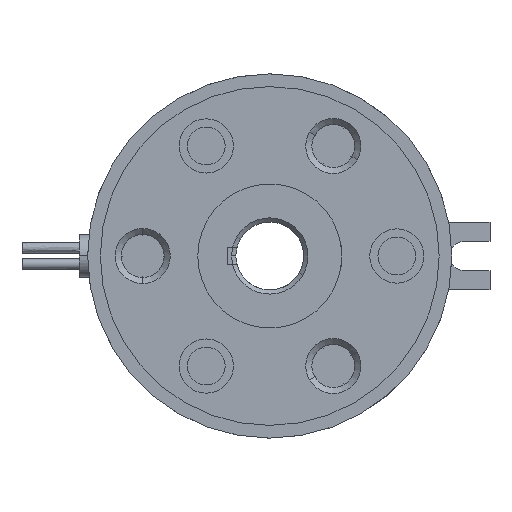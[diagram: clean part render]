
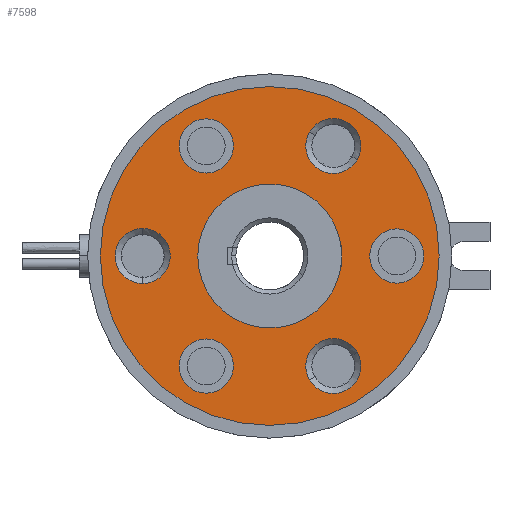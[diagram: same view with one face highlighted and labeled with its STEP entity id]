
A CAD part, left-side view. The second image highlights one B-rep face of the part: STEP entity #7598.
In plain terms, the highlighted planar face has unit normal (-1, 0, 0) as drawn and (0, 0, 1) by its records, which use the part's own axes.
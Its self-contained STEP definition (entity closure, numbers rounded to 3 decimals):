
#6362=CARTESIAN_POINT('',(-20.0,0.,3.0));
#6363=VERTEX_POINT('',#6362);
#6379=CARTESIAN_POINT('',(20.0,0.,3.0));
#6380=VERTEX_POINT('',#6379);
#6387=CARTESIAN_POINT('',(0.0,0.0,3.0));
#6388=DIRECTION('',(0.0,0.0,-1.0));
#6389=DIRECTION('',(-1.0,0.0,0.0));
#6390=AXIS2_PLACEMENT_3D('',#6387,#6388,#6389);
#6391=CIRCLE('',#6390,20.0);
#6392=EDGE_CURVE('',#6380,#6363,#6391,.T.);
#6402=CARTESIAN_POINT('',(-8.5,0.,3.0));
#6403=VERTEX_POINT('',#6402);
#6412=CARTESIAN_POINT('',(8.5,0.,3.0));
#6413=VERTEX_POINT('',#6412);
#6414=CARTESIAN_POINT('',(0.0,0.0,3.0));
#6415=DIRECTION('',(0.0,0.0,-1.0));
#6416=DIRECTION('',(-1.0,0.0,0.0));
#6417=AXIS2_PLACEMENT_3D('',#6414,#6415,#6416);
#6418=CIRCLE('',#6417,8.5);
#6419=EDGE_CURVE('',#6413,#6403,#6418,.T.);
#6548=CARTESIAN_POINT('',(-3.25,-15.0,3.0));
#6549=VERTEX_POINT('',#6548);
#6563=CARTESIAN_POINT('',(3.25,-15.0,3.0));
#6564=VERTEX_POINT('',#6563);
#6571=CARTESIAN_POINT('',(0.,-15.0,3.0));
#6572=DIRECTION('',(0.0,0.0,1.0));
#6573=DIRECTION('',(-1.0,0.0,0.0));
#6574=AXIS2_PLACEMENT_3D('',#6571,#6572,#6573);
#6575=CIRCLE('',#6574,3.25);
#6576=EDGE_CURVE('',#6564,#6549,#6575,.T.);
#6628=CARTESIAN_POINT('',(14.615,4.685,3.0));
#6629=VERTEX_POINT('',#6628);
#6643=CARTESIAN_POINT('',(11.365,10.315,3.0));
#6644=VERTEX_POINT('',#6643);
#6651=CARTESIAN_POINT('',(12.99,7.5,3.0));
#6652=DIRECTION('',(0.0,0.0,1.0));
#6653=DIRECTION('',(0.5,-0.866,0.0));
#6654=AXIS2_PLACEMENT_3D('',#6651,#6652,#6653);
#6655=CIRCLE('',#6654,3.25);
#6656=EDGE_CURVE('',#6644,#6629,#6655,.T.);
#6708=CARTESIAN_POINT('',(-11.365,10.315,3.0));
#6709=VERTEX_POINT('',#6708);
#6723=CARTESIAN_POINT('',(-14.615,4.685,3.0));
#6724=VERTEX_POINT('',#6723);
#6731=CARTESIAN_POINT('',(-12.99,7.5,3.0));
#6732=DIRECTION('',(0.0,0.0,1.0));
#6733=DIRECTION('',(0.5,0.866,0.0));
#6734=AXIS2_PLACEMENT_3D('',#6731,#6732,#6733);
#6735=CIRCLE('',#6734,3.25);
#6736=EDGE_CURVE('',#6724,#6709,#6735,.T.);
#6748=CARTESIAN_POINT('',(-16.19,-7.5,3.0));
#6749=VERTEX_POINT('',#6748);
#6765=CARTESIAN_POINT('',(-9.79,-7.5,3.0));
#6766=VERTEX_POINT('',#6765);
#6773=CARTESIAN_POINT('',(-12.99,-7.5,3.0));
#6774=DIRECTION('',(0.0,0.0,-1.0));
#6775=DIRECTION('',(-1.0,0.0,0.0));
#6776=AXIS2_PLACEMENT_3D('',#6773,#6774,#6775);
#6777=CIRCLE('',#6776,3.2);
#6778=EDGE_CURVE('',#6749,#6766,#6777,.T.);
#6790=CARTESIAN_POINT('',(1.6,17.771,3.0));
#6791=VERTEX_POINT('',#6790);
#6807=CARTESIAN_POINT('',(-1.6,12.229,3.0));
#6808=VERTEX_POINT('',#6807);
#6815=CARTESIAN_POINT('',(0.,15.0,3.0));
#6816=DIRECTION('',(0.0,0.0,-1.0));
#6817=DIRECTION('',(0.5,0.866,0.0));
#6818=AXIS2_PLACEMENT_3D('',#6815,#6816,#6817);
#6819=CIRCLE('',#6818,3.2);
#6820=EDGE_CURVE('',#6791,#6808,#6819,.T.);
#6832=CARTESIAN_POINT('',(14.59,-10.271,3.0));
#6833=VERTEX_POINT('',#6832);
#6849=CARTESIAN_POINT('',(11.39,-4.729,3.0));
#6850=VERTEX_POINT('',#6849);
#6857=CARTESIAN_POINT('',(12.99,-7.5,3.0));
#6858=DIRECTION('',(0.0,0.0,-1.));
#6859=DIRECTION('',(0.5,-0.866,0.0));
#6860=AXIS2_PLACEMENT_3D('',#6857,#6858,#6859);
#6861=CIRCLE('',#6860,3.2);
#6862=EDGE_CURVE('',#6833,#6850,#6861,.T.);
#7471=CARTESIAN_POINT('',(12.99,-7.5,3.0));
#7472=DIRECTION('',(0.0,0.0,-1.));
#7473=DIRECTION('',(0.5,-0.866,0.0));
#7474=AXIS2_PLACEMENT_3D('',#7471,#7472,#7473);
#7475=CIRCLE('',#7474,3.2);
#7476=EDGE_CURVE('',#6850,#6833,#7475,.T.);
#7489=CARTESIAN_POINT('',(0.,15.0,3.0));
#7490=DIRECTION('',(0.0,0.0,-1.0));
#7491=DIRECTION('',(0.5,0.866,0.0));
#7492=AXIS2_PLACEMENT_3D('',#7489,#7490,#7491);
#7493=CIRCLE('',#7492,3.2);
#7494=EDGE_CURVE('',#6808,#6791,#7493,.T.);
#7507=CARTESIAN_POINT('',(-12.99,-7.5,3.0));
#7508=DIRECTION('',(0.0,0.0,-1.0));
#7509=DIRECTION('',(-1.0,0.0,0.0));
#7510=AXIS2_PLACEMENT_3D('',#7507,#7508,#7509);
#7511=CIRCLE('',#7510,3.2);
#7512=EDGE_CURVE('',#6766,#6749,#7511,.T.);
#7525=CARTESIAN_POINT('',(-12.99,7.5,3.0));
#7526=DIRECTION('',(0.0,0.0,1.0));
#7527=DIRECTION('',(0.5,0.866,0.0));
#7528=AXIS2_PLACEMENT_3D('',#7525,#7526,#7527);
#7529=CIRCLE('',#7528,3.25);
#7530=EDGE_CURVE('',#6709,#6724,#7529,.T.);
#7537=CARTESIAN_POINT('',(0.0,0.0,3.0));
#7538=DIRECTION('',(0.0,0.0,-1.0));
#7539=DIRECTION('',(-1.0,0.0,0.0));
#7540=AXIS2_PLACEMENT_3D('',#7537,#7538,#7539);
#7541=PLANE('',#7540);
#7542=ORIENTED_EDGE('',*,*,#6392,.F.);
#7543=CARTESIAN_POINT('',(0.0,0.0,3.0));
#7544=DIRECTION('',(0.0,0.0,-1.0));
#7545=DIRECTION('',(-1.0,0.0,0.0));
#7546=AXIS2_PLACEMENT_3D('',#7543,#7544,#7545);
#7547=CIRCLE('',#7546,20.0);
#7548=EDGE_CURVE('',#6363,#6380,#7547,.T.);
#7549=ORIENTED_EDGE('',*,*,#7548,.F.);
#7550=EDGE_LOOP('',(#7542,#7549));
#7551=FACE_OUTER_BOUND('',#7550,.T.);
#7552=ORIENTED_EDGE('',*,*,#7476,.T.);
#7553=ORIENTED_EDGE('',*,*,#6862,.T.);
#7554=EDGE_LOOP('',(#7552,#7553));
#7555=FACE_BOUND('',#7554,.T.);
#7556=ORIENTED_EDGE('',*,*,#7494,.T.);
#7557=ORIENTED_EDGE('',*,*,#6820,.T.);
#7558=EDGE_LOOP('',(#7556,#7557));
#7559=FACE_BOUND('',#7558,.T.);
#7560=ORIENTED_EDGE('',*,*,#7512,.T.);
#7561=ORIENTED_EDGE('',*,*,#6778,.T.);
#7562=EDGE_LOOP('',(#7560,#7561));
#7563=FACE_BOUND('',#7562,.T.);
#7564=ORIENTED_EDGE('',*,*,#6656,.F.);
#7565=CARTESIAN_POINT('',(12.99,7.5,3.0));
#7566=DIRECTION('',(0.0,0.0,1.0));
#7567=DIRECTION('',(0.5,-0.866,0.0));
#7568=AXIS2_PLACEMENT_3D('',#7565,#7566,#7567);
#7569=CIRCLE('',#7568,3.25);
#7570=EDGE_CURVE('',#6629,#6644,#7569,.T.);
#7571=ORIENTED_EDGE('',*,*,#7570,.F.);
#7572=EDGE_LOOP('',(#7564,#7571));
#7573=FACE_BOUND('',#7572,.T.);
#7574=ORIENTED_EDGE('',*,*,#6419,.T.);
#7575=CARTESIAN_POINT('',(0.0,0.0,3.0));
#7576=DIRECTION('',(0.0,0.0,-1.0));
#7577=DIRECTION('',(-1.0,0.0,0.0));
#7578=AXIS2_PLACEMENT_3D('',#7575,#7576,#7577);
#7579=CIRCLE('',#7578,8.5);
#7580=EDGE_CURVE('',#6403,#6413,#7579,.T.);
#7581=ORIENTED_EDGE('',*,*,#7580,.T.);
#7582=EDGE_LOOP('',(#7574,#7581));
#7583=FACE_BOUND('',#7582,.T.);
#7584=ORIENTED_EDGE('',*,*,#6576,.F.);
#7585=CARTESIAN_POINT('',(0.,-15.0,3.0));
#7586=DIRECTION('',(0.0,0.0,1.0));
#7587=DIRECTION('',(-1.0,0.0,0.0));
#7588=AXIS2_PLACEMENT_3D('',#7585,#7586,#7587);
#7589=CIRCLE('',#7588,3.25);
#7590=EDGE_CURVE('',#6549,#6564,#7589,.T.);
#7591=ORIENTED_EDGE('',*,*,#7590,.F.);
#7592=EDGE_LOOP('',(#7584,#7591));
#7593=FACE_BOUND('',#7592,.T.);
#7594=ORIENTED_EDGE('',*,*,#6736,.F.);
#7595=ORIENTED_EDGE('',*,*,#7530,.F.);
#7596=EDGE_LOOP('',(#7594,#7595));
#7597=FACE_BOUND('',#7596,.T.);
#7598=ADVANCED_FACE('',(#7551,#7555,#7559,#7563,#7573,#7583,#7593,#7597),#7541,.F.);
